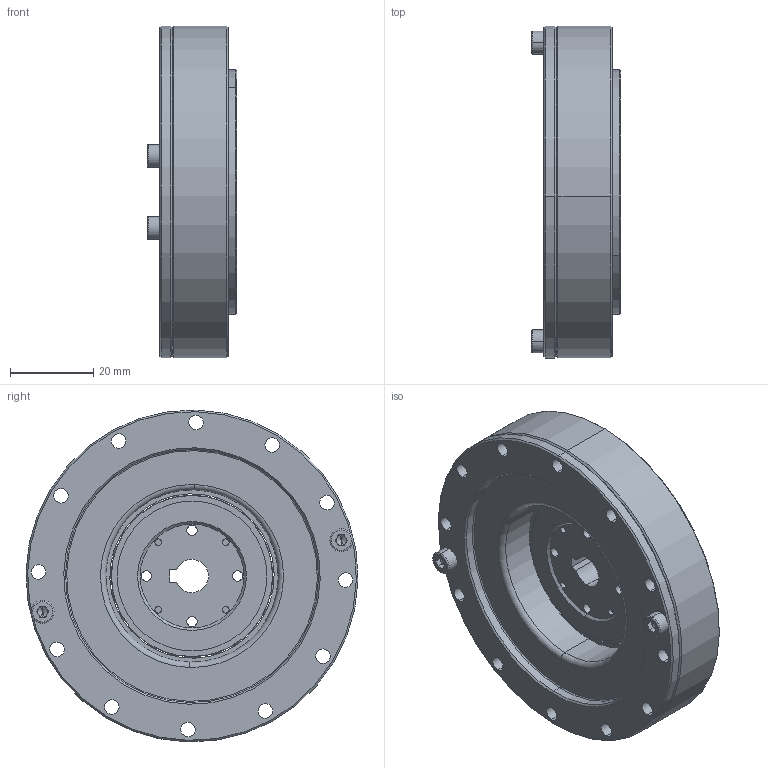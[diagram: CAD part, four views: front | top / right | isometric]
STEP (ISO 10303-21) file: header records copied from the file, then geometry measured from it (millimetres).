
FILE_DESCRIPTION (( 'STEP AP203' ), '1' );
FILE_NAME ('LHD-17-XXX-C-I.STEP', '2017-06-25T08:57:29', ( 'Windows 蚚誧' ), ( 'Users' ), 'SwSTEP 2.0', 'SolidWorks 2013', '' );
FILE_SCHEMA (( 'CONFIG_CONTROL_DESIGN' ));
Length unit declared in the file: millimetre
Products named in the file (13): RZC-17S悵厥殤; DB-17A-I; RZC-17S; LHD-17-XXX-P01; LHD-17-XXX-P03-I; LHD-17-P04; 坋趼羞麥芛蹟隊M2 x 4_ISO 7046-1 - M2 x 4 - Z --- 4N; 15Z-59685; LHD-17-XXX-C-I; socket head cap screw_din_DIN 912 M3 x 6 --- 6C; LHD-17-XXX-P02; socket head cap screw_din_DIN 912 M2 x 6 --- 6C; RZC-17S内外圈+钢球
Assembly tree (21 placements, depth 3):
  LHD-17-XXX-C-I
    DB-17A-I
    LHD-17-XXX-P01
    LHD-17-P04
    15Z-59685
    socket head cap screw_din_DIN 912 M3 x 6 --- 6C  x2
    LHD-17-XXX-P02
    socket head cap screw_din_DIN 912 M2 x 6 --- 6C  x6
    RZC-17S
      RZC-17S内外圈+钢球
      RZC-17S悵厥殤
    LHD-17-XXX-P03-I
    坋趼羞麥芛蹟隊M2 x 4_ISO 7046-1 - M2 x 4 - Z --- 4N  x4
Bounding box: 21.5 x 79.97 x 79.97 mm (x, y, z)
Volume: 57163.7 mm3; surface area: 54679.6 mm2
Topology: 22 solids, 22 shells, 1004 faces, 2542 edges, 1542 vertices
Faces by surface type: cylinder 369, plane 307, cone 182, torus 100, sphere 46
Entity records: 23711 total; most frequent: CARTESIAN_POINT 4251, DIRECTION 4101, ORIENTED_EDGE 3502, AXIS2_PLACEMENT_3D 1759, EDGE_CURVE 1751, VERTEX_POINT 1113, CIRCLE 1015, EDGE_LOOP 914
